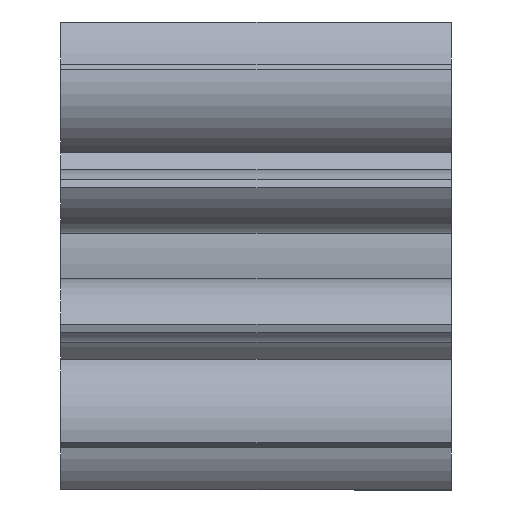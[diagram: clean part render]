
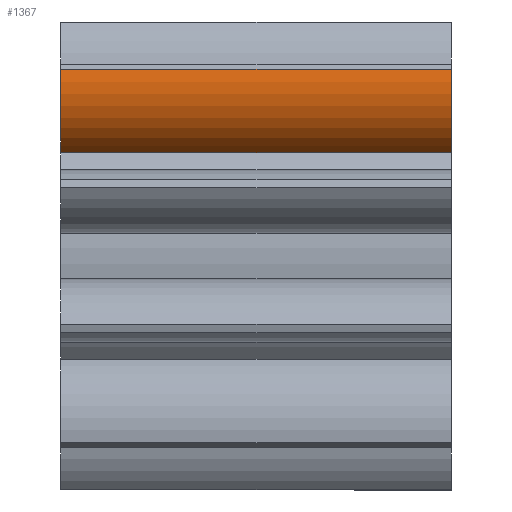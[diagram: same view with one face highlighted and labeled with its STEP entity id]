
A CAD part, front view. The second image highlights one B-rep face of the part: STEP entity #1367.
In plain terms, the highlighted cylindrical face has radius 1.27 mm (diameter 2.54 mm), a partial arc.
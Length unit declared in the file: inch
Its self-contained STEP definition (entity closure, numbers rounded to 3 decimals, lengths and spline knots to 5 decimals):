
#53 = CARTESIAN_POINT ( 'NONE',  ( 0., -0.06545, 0.06607 ) ) ;
#102 = CYLINDRICAL_SURFACE ( 'NONE', #834, 0.05 ) ;
#130 = VERTEX_POINT ( 'NONE', #1247 ) ;
#144 = ORIENTED_EDGE ( 'NONE', *, *, #1153, .T. ) ;
#169 = ORIENTED_EDGE ( 'NONE', *, *, #896, .F. ) ;
#234 = VECTOR ( 'NONE', #1092, 39.37008 ) ;
#332 = ORIENTED_EDGE ( 'NONE', *, *, #958, .T. ) ;
#458 = CARTESIAN_POINT ( 'NONE',  ( 0., -0.04143, 0.10991 ) ) ;
#501 = CIRCLE ( 'NONE', #1631, 0.05 ) ;
#574 = VERTEX_POINT ( 'NONE', #1514 ) ;
#606 = EDGE_LOOP ( 'NONE', ( #144, #1183, #169, #332 ) ) ;
#624 = CARTESIAN_POINT ( 'NONE',  ( 0.25, -0.06545, 0.06607 ) ) ;
#730 = AXIS2_PLACEMENT_3D ( 'NONE', #458, #1242, #978 ) ;
#802 = VERTEX_POINT ( 'NONE', #1066 ) ;
#834 = AXIS2_PLACEMENT_3D ( 'NONE', #1017, #882, #1539 ) ;
#882 = DIRECTION ( 'NONE',  ( -1., 0., 0. ) ) ;
#896 = EDGE_CURVE ( 'NONE', #130, #1204, #1400, .T. ) ;
#958 = EDGE_CURVE ( 'NONE', #130, #574, #501, .T. ) ;
#978 = DIRECTION ( 'NONE',  ( 0., 0.588, 0.809 ) ) ;
#998 = DIRECTION ( 'NONE',  ( -1., 0., 0. ) ) ;
#1010 = DIRECTION ( 'NONE',  ( 0., 0.588, 0.809 ) ) ;
#1017 = CARTESIAN_POINT ( 'NONE',  ( 0.25, -0.04143, 0.10991 ) ) ;
#1066 = CARTESIAN_POINT ( 'NONE',  ( 0., -0.09047, 0.11965 ) ) ;
#1084 = CARTESIAN_POINT ( 'NONE',  ( 0.125, -0.09047, 0.11965 ) ) ;
#1092 = DIRECTION ( 'NONE',  ( -1., 0., 0. ) ) ;
#1126 = FACE_OUTER_BOUND ( 'NONE', #606, .T. ) ;
#1153 = EDGE_CURVE ( 'NONE', #574, #802, #1363, .T. ) ;
#1183 = ORIENTED_EDGE ( 'NONE', *, *, #1258, .F. ) ;
#1204 = VERTEX_POINT ( 'NONE', #53 ) ;
#1239 = CIRCLE ( 'NONE', #730, 0.05 ) ;
#1242 = DIRECTION ( 'NONE',  ( -1., 0., 0. ) ) ;
#1247 = CARTESIAN_POINT ( 'NONE',  ( 0.25, -0.06545, 0.06607 ) ) ;
#1258 = EDGE_CURVE ( 'NONE', #1204, #802, #1239, .T. ) ;
#1318 = VECTOR ( 'NONE', #998, 39.37008 ) ;
#1363 = LINE ( 'NONE', #1084, #234 ) ;
#1367 = ADVANCED_FACE ( 'NONE', ( #1126 ), #102, .T. ) ;
#1400 = LINE ( 'NONE', #624, #1318 ) ;
#1417 = CARTESIAN_POINT ( 'NONE',  ( 0.25, -0.04143, 0.10991 ) ) ;
#1514 = CARTESIAN_POINT ( 'NONE',  ( 0.25, -0.09047, 0.11965 ) ) ;
#1539 = DIRECTION ( 'NONE',  ( 0., 0., 1. ) ) ;
#1631 = AXIS2_PLACEMENT_3D ( 'NONE', #1417, #1677, #1010 ) ;
#1677 = DIRECTION ( 'NONE',  ( -1., 0., 0. ) ) ;
